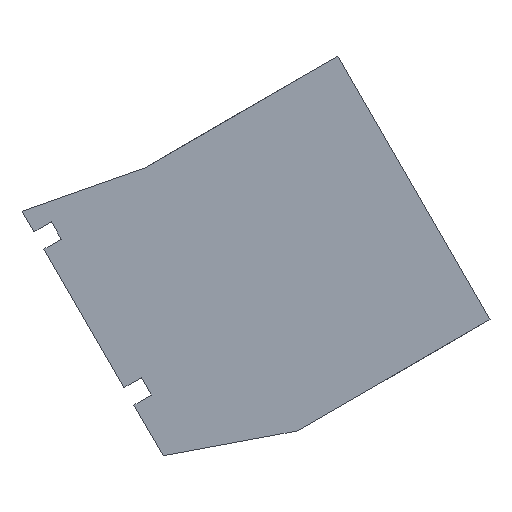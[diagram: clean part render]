
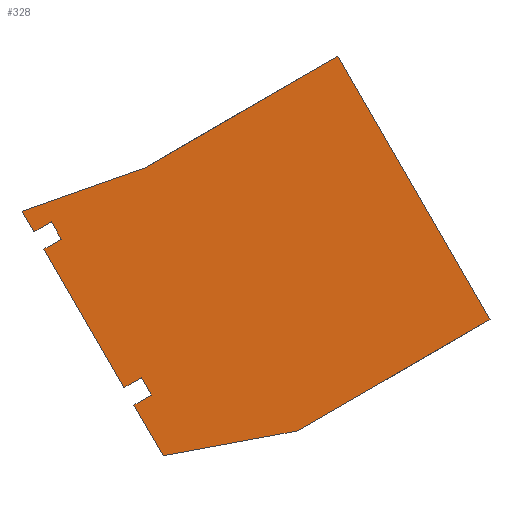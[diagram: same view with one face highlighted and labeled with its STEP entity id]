
A CAD part, left-side view. The second image highlights one B-rep face of the part: STEP entity #328.
In plain terms, the highlighted planar face has unit normal (-1, 0, 0).
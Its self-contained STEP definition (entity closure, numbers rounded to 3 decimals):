
#163=CARTESIAN_POINT('Vertex',(-700.,406.455,-372.)) ;
#168=CARTESIAN_POINT('Line Origine',(-700.,268.355,-323.195)) ;
#172=CARTESIAN_POINT('Vertex',(-700.,130.256,-274.389)) ;
#203=CARTESIAN_POINT('Vertex',(-700.,379.672,-418.389)) ;
#208=CARTESIAN_POINT('Line Origine',(-700.,393.063,-395.195)) ;
#225=CARTESIAN_POINT('Axis2P3D Location',(-700.,0.,0.)) ;
#230=CARTESIAN_POINT('Line Origine',(-700.,360.186,-407.139)) ;
#234=CARTESIAN_POINT('Vertex',(-700.,340.701,-395.889)) ;
#237=CARTESIAN_POINT('Line Origine',(-700.,329.451,-415.375)) ;
#241=CARTESIAN_POINT('Vertex',(-700.,318.201,-434.861)) ;
#244=CARTESIAN_POINT('Line Origine',(-700.,337.686,-446.111)) ;
#248=CARTESIAN_POINT('Vertex',(-700.,357.172,-457.361)) ;
#251=CARTESIAN_POINT('Line Origine',(-700.,267.422,-612.812)) ;
#255=CARTESIAN_POINT('Vertex',(-700.,177.672,-768.264)) ;
#258=CARTESIAN_POINT('Line Origine',(-700.,158.186,-757.014)) ;
#262=CARTESIAN_POINT('Vertex',(-700.,138.701,-745.764)) ;
#265=CARTESIAN_POINT('Line Origine',(-700.,127.451,-765.249)) ;
#269=CARTESIAN_POINT('Vertex',(-700.,116.201,-784.735)) ;
#272=CARTESIAN_POINT('Line Origine',(-700.,135.686,-795.985)) ;
#276=CARTESIAN_POINT('Vertex',(-700.,155.172,-807.235)) ;
#279=CARTESIAN_POINT('Line Origine',(-700.,122.33,-864.117)) ;
#283=CARTESIAN_POINT('Vertex',(-700.,89.489,-921.)) ;
#286=CARTESIAN_POINT('Line Origine',(-700.,-60.752,-893.226)) ;
#290=CARTESIAN_POINT('Vertex',(-700.,-210.994,-865.452)) ;
#293=CARTESIAN_POINT('Line Origine',(-700.,-427.5,-740.452)) ;
#297=CARTESIAN_POINT('Vertex',(-700.,-644.006,-615.452)) ;
#300=CARTESIAN_POINT('Line Origine',(-700.,-473.381,-319.921)) ;
#304=CARTESIAN_POINT('Vertex',(-700.,-302.756,-24.389)) ;
#307=CARTESIAN_POINT('Line Origine',(-700.,-86.25,-149.389)) ;
#169=DIRECTION('Vector Direction',(0.,-0.943,0.333)) ;
#209=DIRECTION('Vector Direction',(0.,-0.5,-0.866)) ;
#226=DIRECTION('Axis2P3D Direction',(1.,0.,0.)) ;
#227=DIRECTION('Axis2P3D XDirection',(0.,1.,0.)) ;
#231=DIRECTION('Vector Direction',(0.,-0.866,0.5)) ;
#238=DIRECTION('Vector Direction',(0.,-0.5,-0.866)) ;
#245=DIRECTION('Vector Direction',(0.,0.866,-0.5)) ;
#252=DIRECTION('Vector Direction',(0.,-0.5,-0.866)) ;
#259=DIRECTION('Vector Direction',(0.,-0.866,0.5)) ;
#266=DIRECTION('Vector Direction',(0.,-0.5,-0.866)) ;
#273=DIRECTION('Vector Direction',(0.,0.866,-0.5)) ;
#280=DIRECTION('Vector Direction',(0.,-0.5,-0.866)) ;
#287=DIRECTION('Vector Direction',(0.,-0.983,0.182)) ;
#294=DIRECTION('Vector Direction',(0.,0.866,-0.5)) ;
#301=DIRECTION('Vector Direction',(0.,-0.5,-0.866)) ;
#308=DIRECTION('Vector Direction',(0.,0.866,-0.5)) ;
#228=AXIS2_PLACEMENT_3D('Plane Axis2P3D',#225,#226,#227) ;
#313=ORIENTED_EDGE('',*,*,#212,.F.) ;
#314=ORIENTED_EDGE('',*,*,#236,.F.) ;
#315=ORIENTED_EDGE('',*,*,#243,.F.) ;
#316=ORIENTED_EDGE('',*,*,#250,.F.) ;
#317=ORIENTED_EDGE('',*,*,#257,.F.) ;
#318=ORIENTED_EDGE('',*,*,#264,.F.) ;
#319=ORIENTED_EDGE('',*,*,#271,.F.) ;
#320=ORIENTED_EDGE('',*,*,#278,.F.) ;
#321=ORIENTED_EDGE('',*,*,#285,.F.) ;
#322=ORIENTED_EDGE('',*,*,#292,.F.) ;
#323=ORIENTED_EDGE('',*,*,#299,.F.) ;
#324=ORIENTED_EDGE('',*,*,#306,.F.) ;
#325=ORIENTED_EDGE('',*,*,#311,.F.) ;
#326=ORIENTED_EDGE('',*,*,#174,.F.) ;
#170=VECTOR('Line Direction',#169,1.) ;
#210=VECTOR('Line Direction',#209,1.) ;
#232=VECTOR('Line Direction',#231,1.) ;
#239=VECTOR('Line Direction',#238,1.) ;
#246=VECTOR('Line Direction',#245,1.) ;
#253=VECTOR('Line Direction',#252,1.) ;
#260=VECTOR('Line Direction',#259,1.) ;
#267=VECTOR('Line Direction',#266,1.) ;
#274=VECTOR('Line Direction',#273,1.) ;
#281=VECTOR('Line Direction',#280,1.) ;
#288=VECTOR('Line Direction',#287,1.) ;
#295=VECTOR('Line Direction',#294,1.) ;
#302=VECTOR('Line Direction',#301,1.) ;
#309=VECTOR('Line Direction',#308,1.) ;
#328=ADVANCED_FACE('',(#327),#229,.F.) ;
#174=EDGE_CURVE('',#164,#173,#171,.T.) ;
#212=EDGE_CURVE('',#204,#164,#211,.F.) ;
#236=EDGE_CURVE('',#235,#204,#233,.F.) ;
#243=EDGE_CURVE('',#242,#235,#240,.F.) ;
#250=EDGE_CURVE('',#249,#242,#247,.F.) ;
#257=EDGE_CURVE('',#256,#249,#254,.F.) ;
#264=EDGE_CURVE('',#263,#256,#261,.F.) ;
#271=EDGE_CURVE('',#270,#263,#268,.F.) ;
#278=EDGE_CURVE('',#277,#270,#275,.F.) ;
#285=EDGE_CURVE('',#284,#277,#282,.F.) ;
#292=EDGE_CURVE('',#291,#284,#289,.F.) ;
#299=EDGE_CURVE('',#298,#291,#296,.T.) ;
#306=EDGE_CURVE('',#305,#298,#303,.T.) ;
#311=EDGE_CURVE('',#173,#305,#310,.F.) ;
#312=EDGE_LOOP('',(#313,#314,#315,#316,#317,#318,#319,#320,#321,#322,#323,#324,#325,#326)) ;
#327=FACE_OUTER_BOUND('',#312,.T.) ;
#171=LINE('Line',#168,#170) ;
#211=LINE('Line',#208,#210) ;
#233=LINE('Line',#230,#232) ;
#240=LINE('Line',#237,#239) ;
#247=LINE('Line',#244,#246) ;
#254=LINE('Line',#251,#253) ;
#261=LINE('Line',#258,#260) ;
#268=LINE('Line',#265,#267) ;
#275=LINE('Line',#272,#274) ;
#282=LINE('Line',#279,#281) ;
#289=LINE('Line',#286,#288) ;
#296=LINE('Line',#293,#295) ;
#303=LINE('Line',#300,#302) ;
#310=LINE('Line',#307,#309) ;
#229=PLANE('Plane',#228) ;
#164=VERTEX_POINT('',#163) ;
#173=VERTEX_POINT('',#172) ;
#204=VERTEX_POINT('',#203) ;
#235=VERTEX_POINT('',#234) ;
#242=VERTEX_POINT('',#241) ;
#249=VERTEX_POINT('',#248) ;
#256=VERTEX_POINT('',#255) ;
#263=VERTEX_POINT('',#262) ;
#270=VERTEX_POINT('',#269) ;
#277=VERTEX_POINT('',#276) ;
#284=VERTEX_POINT('',#283) ;
#291=VERTEX_POINT('',#290) ;
#298=VERTEX_POINT('',#297) ;
#305=VERTEX_POINT('',#304) ;
